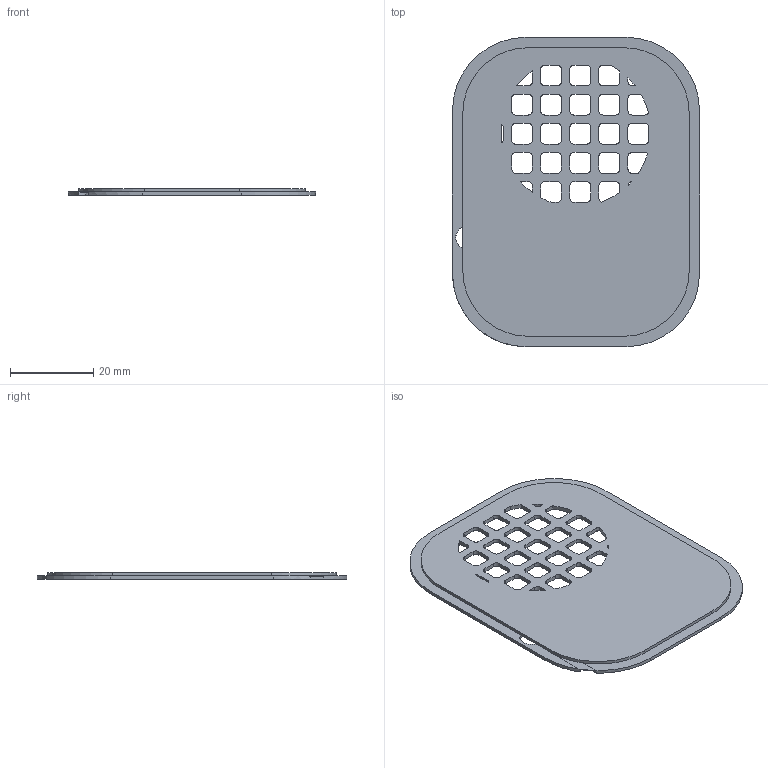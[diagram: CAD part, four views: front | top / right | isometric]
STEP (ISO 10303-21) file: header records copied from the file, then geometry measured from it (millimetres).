
FILE_DESCRIPTION(('Open CASCADE Model'),'2;1');
FILE_NAME('Open CASCADE Shape Model','2026-09-04T20:58:22',('Author'),( 'Open CASCADE'),'Open CASCADE STEP processor 7.7','Open CASCADE 7.7' ,'Unknown');
FILE_SCHEMA(('AUTOMOTIVE_DESIGN { 1 0 10303 214 1 1 1 1 }'));
Length unit declared in the file: millimetre
Products named in the file (1): Open CASCADE STEP translator 7.7 7
Bounding box: 59.4 x 74.4 x 1.55 mm (x, y, z)
Volume: 3678.9 mm3; surface area: 8181.5 mm2
Topology: 1 solids, 1 shells, 220 faces, 655 edges, 436 vertices
Faces by surface type: cylinder 111, plane 109
Full cylindrical faces by diameter (mm): 5.8 x1
Entity records: 16166 total; most frequent: CARTESIAN_POINT 2838, DIRECTION 2585, LINE 1489, VECTOR 1489, ORIENTED_EDGE 1310, PCURVE 1310, DEFINITIONAL_REPRESENTATION 1310, EDGE_CURVE 655
